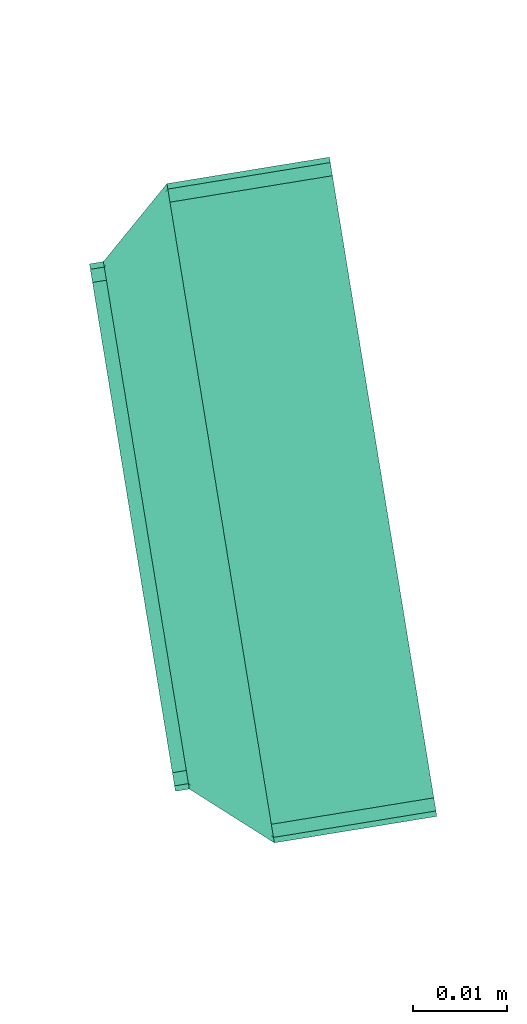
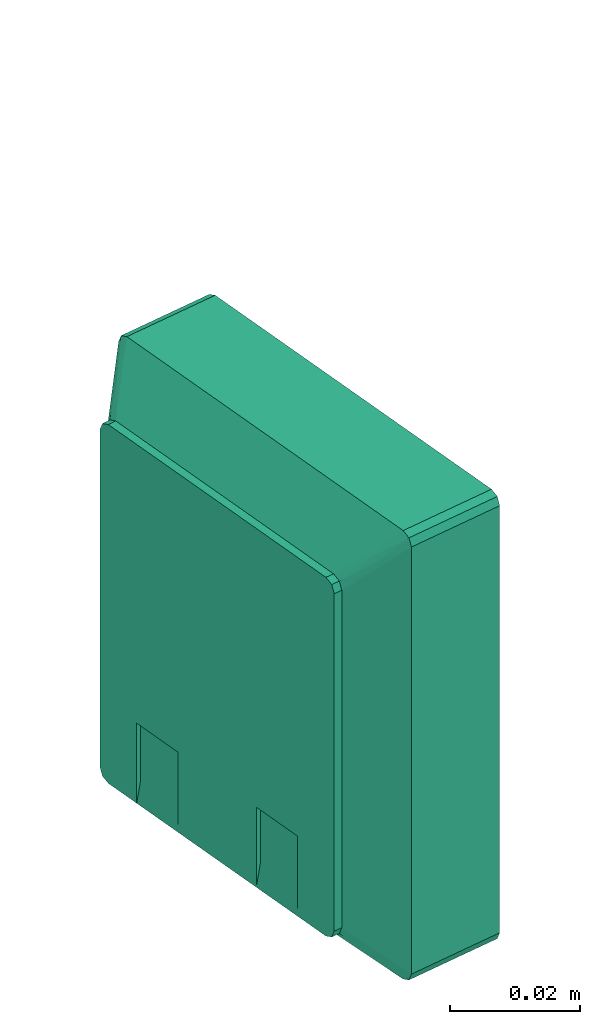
# One storey, part 2 of 2: 1 flow terminal.
"""IFC2X3 building model written with IfcOpenShell, lengths in millimetres."""

import ifcopenshell
import ifcopenshell.guid

model = None  # the IFC model being written
_history = None  # IfcOwnerHistory: only IFC2X3 demands one
_inside = {}  # id of a spatial element -> (the spatial element, [elements in it])
_under = {}  # id of a project, library or spatial element -> (it, [spatial elements below it])
_declared = {}  # id of a project -> (the project, [libraries it declares])
_typed = {}  # id of a type object -> (the type object, [elements of that type])
_made_of = {}  # id of a material, layer set ... -> (it, [elements and type objects made of it])


def new_model(schema):
    """Start an empty IFC model of exactly this schema.

    Asked for "IFC4X3", IfcOpenShell would pick the latest addendum, in which some entities
    have other attributes; the version numbers below select the first issue.
    IFC2X3 requires an IfcOwnerHistory on every rooted entity: one is made here for all.
    """
    global model, _history
    if schema == "IFC4X3":
        model = ifcopenshell.file(schema_version=(4, 3, 0, 0))
    else:
        model = ifcopenshell.file(schema=schema)
    _inside.clear()
    _under.clear()
    _declared.clear()
    _typed.clear()
    _made_of.clear()
    _history = None
    if model.schema == "IFC2X3":
        org = make("IfcOrganization", Name="unknown")
        user = make(
            "IfcPersonAndOrganization",
            ThePerson=make("IfcPerson", FamilyName="unknown"),
            TheOrganization=org,
        )
        app = make(
            "IfcApplication",
            ApplicationDeveloper=org,
            Version="unknown",
            ApplicationFullName="unknown",
            ApplicationIdentifier="unknown",
        )
        _history = make(
            "IfcOwnerHistory",
            OwningUser=user,
            OwningApplication=app,
            ChangeAction="ADDED",
            CreationDate=0,
        )
    return model


def make(cls, **values):
    """One entity of the class cls with the attributes given. An attribute that is None is left unset."""
    return model.create_entity(
        cls, **{name: value for name, value in values.items() if value is not None}
    )


def entity(cls, *values):
    """Any entity or typed value of the class cls, its attributes in the order of the schema. None: left unset."""
    e = model.create_entity(cls)
    for i, value in enumerate(values):
        if value is not None:
            e[i] = value
    return e


def rooted(cls, **values):
    """An entity with a GlobalId (a new one), such as an element, a storey or a relation."""
    return make(cls, GlobalId=ifcopenshell.guid.new(), OwnerHistory=_history, **values)


def si_unit(unit_type, name, prefix=None):
    """IfcSIUnit, for example si_unit("LENGTHUNIT", "METRE", prefix="MILLI")."""
    return make("IfcSIUnit", UnitType=unit_type, Prefix=prefix, Name=name)


def converted_unit(unit_type, name, factor, base, dimensions=None, offset=None):
    """IfcConversionBasedUnit, such as the inch: factor (a typed value) times the base unit."""
    return make(
        "IfcConversionBasedUnit"
        if offset is None
        else "IfcConversionBasedUnitWithOffset",
        ConversionOffset=offset,
        Dimensions=None
        if dimensions is None
        else entity("IfcDimensionalExponents", *dimensions),
        UnitType=unit_type,
        Name=name,
        ConversionFactor=make(
            "IfcMeasureWithUnit", ValueComponent=factor, UnitComponent=base
        ),
    )


def derived_unit(unit_type, elements):
    """IfcDerivedUnit: a product of units, each with its exponent."""
    return make(
        "IfcDerivedUnit",
        Elements=[
            make("IfcDerivedUnitElement", Unit=unit, Exponent=power)
            for unit, power in elements
        ],
        UnitType=unit_type,
    )


def assignment(units):
    """IfcUnitAssignment: the units of a project."""
    return None if units is None else make("IfcUnitAssignment", Units=units)


def point(xyz):
    """IfcCartesianPoint."""
    return None if xyz is None else make("IfcCartesianPoint", Coordinates=xyz)


def direction(xyz):
    """IfcDirection."""
    return None if xyz is None else make("IfcDirection", DirectionRatios=xyz)


def frame(location, z_axis=None, x_axis=None):
    """IfcAxis2Placement3D, a coordinate frame: its origin and axes. An axis left out is left unset."""
    return make(
        "IfcAxis2Placement3D",
        Location=point(location),
        Axis=direction(z_axis),
        RefDirection=direction(x_axis),
    )


def origin():
    """The frame at (0, 0, 0) with its axes left unset."""
    return frame((0.0, 0.0, 0.0))


def origin_with_axes():
    """The frame at (0, 0, 0) with the z axis (0, 0, 1) and the x axis (1, 0, 0) written out."""
    return frame((0.0, 0.0, 0.0), z_axis=(0.0, 0.0, 1.0), x_axis=(1.0, 0.0, 0.0))


def place(relative_to, where):
    """IfcLocalPlacement: puts the frame where relative to a parent placement (None: the world)."""
    return make(
        "IfcLocalPlacement", PlacementRelTo=relative_to, RelativePlacement=where
    )


def context(
    kind, dimensions, precision=None, world=None, true_north=None, identifier=None
):
    """IfcGeometricRepresentationContext, for example the 3D "Model" context."""
    return make(
        "IfcGeometricRepresentationContext",
        ContextIdentifier=identifier,
        ContextType=kind,
        CoordinateSpaceDimension=dimensions,
        Precision=precision,
        WorldCoordinateSystem=world,
        TrueNorth=true_north,
    )


def subcontext(parent, identifier, kind, view, scale=None):
    """IfcGeometricRepresentationSubContext, for example "Body" below "Model"."""
    return make(
        "IfcGeometricRepresentationSubContext",
        ContextIdentifier=identifier,
        ContextType=kind,
        ParentContext=parent,
        TargetScale=scale,
        TargetView=view,
    )


def project(units=None, contexts=None):
    """IfcProject with its units and contexts."""
    return rooted(
        "IfcProject",
        Name="project",
        RepresentationContexts=contexts,
        UnitsInContext=assignment(units),
    )


def spatial(cls, under=None, at=None, **own):
    """A site, building, storey or space (cls), placed at a placement, below another one or the project."""
    s = rooted(cls, ObjectPlacement=at, **own)
    if under is not None:
        _under.setdefault(under.id(), (under, []))[1].append(s)
    return s


def faces_of(points, faces, orient=None, outer=None):
    """IfcFace entities. A face is a list of loops; a loop is a list of indices into points, from 0.

    orient and outer hold one flag for each loop. By default every Orientation is true, the
    first loop of a face is its IfcFaceOuterBound and the others are IfcFaceBound.
    """
    made = []
    for i, loops in enumerate(faces):
        bounds = []
        for j, loop in enumerate(loops):
            is_outer = j == 0 if outer is None else outer[i][j]
            bounds.append(
                make(
                    "IfcFaceOuterBound" if is_outer else "IfcFaceBound",
                    Bound=make("IfcPolyLoop", Polygon=[points[k] for k in loop]),
                    Orientation=True if orient is None else orient[i][j],
                )
            )
        made.append(make("IfcFace", Bounds=bounds))
    return made


def faceted_brep(points, faces, orient=None, outer=None, voids=None):
    """IfcFacetedBrep: a solid bounded by flat faces; with voids (closed shells), ...WithVoids."""
    shared = [point(p) for p in points]
    hull = make("IfcClosedShell", CfsFaces=faces_of(shared, faces, orient, outer))
    if voids is None:
        return make("IfcFacetedBrep", Outer=hull)
    return make(
        "IfcFacetedBrepWithVoids",
        Outer=hull,
        Voids=[
            make(cls, CfsFaces=faces_of(shared, fs, o, b)) for cls, fs, o, b in voids
        ],
    )


def shape(context_of_items, identifier, shape_type, items):
    """IfcShapeRepresentation: the items that make up one representation, for example the "Body"."""
    return make(
        "IfcShapeRepresentation",
        ContextOfItems=context_of_items,
        RepresentationIdentifier=identifier,
        RepresentationType=shape_type,
        Items=items,
    )


def source(mapping_origin, context_of_items, identifier, shape_type, items):
    """IfcRepresentationMap: a shape defined once, which mapped items show again and again."""
    return make(
        "IfcRepresentationMap",
        MappingOrigin=mapping_origin,
        MappedRepresentation=shape(context_of_items, identifier, shape_type, items),
    )


def transform(
    local_origin,
    x_axis=None,
    y_axis=None,
    z_axis=None,
    scale=None,
    scale2=None,
    scale3=None,
    uniform=True,
):
    """IfcCartesianTransformationOperator3D, or its non-uniform kind. x_axis, y_axis, z_axis: its Axis1, 2, 3."""
    if uniform:
        return make(
            "IfcCartesianTransformationOperator3D",
            Axis1=direction(x_axis),
            Axis2=direction(y_axis),
            LocalOrigin=point(local_origin),
            Scale=scale,
            Axis3=direction(z_axis),
        )
    return make(
        "IfcCartesianTransformationOperator3DnonUniform",
        Axis1=direction(x_axis),
        Axis2=direction(y_axis),
        LocalOrigin=point(local_origin),
        Scale=scale,
        Axis3=direction(z_axis),
        Scale2=scale2,
        Scale3=scale3,
    )


def mapped(mapping_source, mapping_target):
    """IfcMappedItem: shows the shape of a source again, moved by a transform."""
    return make(
        "IfcMappedItem", MappingSource=mapping_source, MappingTarget=mapping_target
    )


def material(Name=None, Category=None):
    """IfcMaterial."""
    return make("IfcMaterial", Name=Name, Category=Category)


def made_of(thing, what):
    """Note that an element or type object is made of a material, layer set ...; save() writes the relation."""
    if what is not None:
        _made_of.setdefault(what.id(), (what, []))[1].append(thing)
    return thing


def type_object(cls, material=None, **own):
    """A type object (cls), such as IfcWallType, which elements share."""
    return made_of(rooted(cls, **own), material)


def element(
    cls,
    number,
    at=None,
    inside=None,
    cuts=None,
    type_object=None,
    material=None,
    context=None,
    identifier="Body",
    shape_type=None,
    held_by="IfcProductDefinitionShape",
    body=None,
    shapes=None,
    **own,
):
    """One element of the class cls, such as IfcWall. Its Tag is "e" and its number.

    at: its placement. inside: the storey or other place that contains it. cuts: it is an
    opening in that element (IfcRelVoidsElement). A single representation is given by context,
    identifier, shape_type and body (its items); several are given by shapes. held_by: the class
    of the entity that holds the representations. save() writes the other relations.
    """
    e = rooted(cls, Tag="e%d" % number, ObjectPlacement=at, **own)
    if body is not None:
        shapes = [shape(context, identifier, shape_type, body)]
    if shapes is not None:
        e.Representation = make(held_by, Representations=shapes)
    if inside is not None:
        _inside.setdefault(inside.id(), (inside, []))[1].append(e)
    if cuts is not None:
        rooted(
            "IfcRelVoidsElement", RelatingBuildingElement=cuts, RelatedOpeningElement=e
        )
    if type_object is not None:
        _typed.setdefault(type_object.id(), (type_object, []))[1].append(e)
    return made_of(e, material)


def aggregate(whole, parts):
    """IfcRelAggregates: a whole, such as a stair, and the parts it consists of."""
    return rooted("IfcRelAggregates", RelatingObject=whole, RelatedObjects=parts)


def save(model, path):
    """Write the relations noted so far, then the file.

    IfcRelAggregates (storeys below a building ...), IfcRelContainedInSpatialStructure (elements
    in a storey), IfcRelDefinesByType, IfcRelAssociatesMaterial and IfcRelDeclares: one each for
    every whole, place, type object, material and project.
    """
    for whole, parts in _under.values():
        aggregate(whole, parts)
    for where, things in _inside.values():
        rooted(
            "IfcRelContainedInSpatialStructure",
            RelatedElements=things,
            RelatingStructure=where,
        )
    for kind, things in _typed.values():
        rooted("IfcRelDefinesByType", RelatedObjects=things, RelatingType=kind)
    for what, things in _made_of.values():
        rooted("IfcRelAssociatesMaterial", RelatedObjects=things, RelatingMaterial=what)
    for by, libraries in _declared.values():
        rooted("IfcRelDeclares", RelatingContext=by, RelatedDefinitions=libraries)
    model.write(path)


model = new_model("IFC2X3")

# Units and contexts
model_context = context("Model", 3, precision=0.01, world=origin(), true_north=direction((6.12323399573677e-17, 1.0)))
plan_context = context("Plan", 3, precision=1e-05, world=origin_with_axes())
body_context = subcontext(model_context, "Body", "Model", "MODEL_VIEW")
ifc_project = project(units=[converted_unit("PLANEANGLEUNIT", "DEGREE", entity("IfcPositiveLengthMeasure", 0.0174532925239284), si_unit("PLANEANGLEUNIT", "RADIAN"), dimensions=[0, 0, 0, 0, 0, 0, 0]), si_unit("AREAUNIT", "SQUARE_METRE"), si_unit("LENGTHUNIT", "METRE", prefix="MILLI"), si_unit("MASSUNIT", "GRAM", prefix="KILO"), si_unit("POWERUNIT", "WATT"), si_unit("PRESSUREUNIT", "PASCAL", prefix="KILO"), si_unit("FORCEUNIT", "NEWTON", prefix="KILO"), si_unit("ELECTRICVOLTAGEUNIT", "VOLT"), si_unit("ELECTRICCURRENTUNIT", "AMPERE"), si_unit("THERMODYNAMICTEMPERATUREUNIT", "DEGREE_CELSIUS"), si_unit("TIMEUNIT", "SECOND"), si_unit("VOLUMEUNIT", "CUBIC_METRE"), derived_unit("LINEARVELOCITYUNIT", [(si_unit("LENGTHUNIT", "METRE"), 1), (si_unit("TIMEUNIT", "SECOND"), -1)]), derived_unit("VOLUMETRICFLOWRATEUNIT", [(si_unit("VOLUMEUNIT", "CUBIC_METRE"), 1), (si_unit("TIMEUNIT", "SECOND"), -1)]), derived_unit("THERMALTRANSMITTANCEUNIT", [(si_unit("POWERUNIT", "WATT"), 1), (si_unit("THERMODYNAMICTEMPERATUREUNIT", "KELVIN"), -1), (si_unit("AREAUNIT", "SQUARE_METRE"), -1)]), derived_unit("SOUNDPRESSUREUNIT", [(si_unit("PRESSUREUNIT", "PASCAL"), 1)])], contexts=[model_context, plan_context])

# Site, building, storey
site_placement = place(None, frame((5.09380697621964e-08, 5.80416781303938e-08, 0.0), z_axis=(0.0, 0.0, 1.0), x_axis=(-0.160806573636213, 0.986985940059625, 0.0)))
site = spatial("IfcSite", under=ifc_project, at=site_placement, Name="Default", CompositionType="ELEMENT")
building_placement = place(site_placement, frame((0.0, 0.0, 0.0), z_axis=(0.0, 0.0, 1.0), x_axis=(1.0, -2.77555756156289e-17, 0.0)))
building = spatial("IfcBuilding", under=site, at=building_placement, Name="Bygning (endres i Project Information)", CompositionType="ELEMENT")
storey_placement = place(building_placement, frame((0.0, 0.0, 51360.0000000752), z_axis=(0.0, 0.0, 1.0), x_axis=(1.0, -2.77555756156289e-17, 0.0)))
storey = spatial("IfcBuildingStorey", under=building, at=storey_placement, Name="H01-Nivå D+0,36", CompositionType="ELEMENT", Elevation=51360.0000000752)

# Flow terminal
ifc_material = material(Name="Plastic - White")
electric_appliance_type = type_object("IfcElectricApplianceType", Name="UD2002 Spredenett - 2 uttak - Påvegg_Vegg:UD2002", PredefinedType="NOTDEFINED", material=ifc_material)
shared_shape = source(origin(), body_context, "Body", "Brep", [
    faceted_brep([(28.4000000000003, 25.4999999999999, -31.5999999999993), (27.8142135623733, 25.4999999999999, -33.0142135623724), (26.4000000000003, 25.4999999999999, -33.5999999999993), (-26.3999999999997, 25.4999999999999, -33.5999999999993), (-27.8142135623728, 25.4999999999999, -33.0142135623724), (-28.3999999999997, 25.4999999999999, -31.5999999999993), (-28.3999999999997, 25.4999999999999, 31.6000000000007), (-27.8142135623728, 25.4999999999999, 33.0142135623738), (-26.3999999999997, 25.4999999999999, 33.6000000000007), (26.4000000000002, 25.4999999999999, 33.6000000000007), (27.8142135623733, 25.4999999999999, 33.0142135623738), (28.4000000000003, 25.4999999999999, 31.6000000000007), (35.5000000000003, 17.5, 40.0), (34.9142135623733, 17.5, 41.4142135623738), (33.5000000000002, 17.5, 42.0), (-33.4999999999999, 17.5, 42.0), (-34.914213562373, 17.5, 41.4142135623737), (-35.4999999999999, 17.5, 40.0), (-35.4999999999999, 17.5, -40.0), (-34.914213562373, 17.5, -41.4142135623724), (-33.4999999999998, 17.5, -42.0), (33.5000000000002, 17.5, -42.0), (34.9142135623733, 17.5, -41.4142135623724), (35.5000000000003, 17.5, -40.0), (29.8123847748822, 21.6550594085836, 37.6371876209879), (-29.8123847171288, 21.6550594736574, 37.6371875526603), (-31.8123847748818, 21.6550594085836, 35.6371876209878), (-31.8123847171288, 21.6550594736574, -35.637187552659), (29.8123844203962, 21.6550598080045, -37.6371872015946), (-29.8123847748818, 21.6550594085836, -37.6371876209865), (31.8123844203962, 21.6550598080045, 35.6371872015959), (31.8123847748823, 21.6550594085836, -35.6371876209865), (-31.6676261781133, 21.5000001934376, 36.8245776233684), (-31.1968403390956, 21.2063787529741, 37.8482184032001), (-30.9745776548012, 21.5000001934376, -37.5176261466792), (-31.9505049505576, 21.2063787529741, -37.0945537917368), (31.6676261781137, 21.5000001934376, -36.824577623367), (31.196840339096, 21.2063787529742, -37.8482184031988), (30.9745776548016, 21.5000001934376, 37.5176261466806), (31.950504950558, 21.2063787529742, 37.0945537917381)], [[[0, 1, 2, 3, 4, 5, 6, 7, 8, 9, 10, 11]], [[12, 13, 14, 15, 16, 17, 18, 19, 20, 21, 22, 23]], [[14, 24, 9, 8, 25, 15]], [[17, 26, 6, 5, 27, 18]], [[3, 2, 28, 21, 20, 29]], [[0, 11, 30, 12, 23, 31]], [[16, 32, 17]], [[33, 15, 25, 8]], [[15, 33, 16]], [[7, 6, 32]], [[7, 32, 33]], [[17, 32, 6, 26]], [[8, 7, 33]], [[33, 32, 16]], [[19, 34, 20]], [[35, 18, 27, 5]], [[18, 35, 19]], [[4, 3, 34]], [[4, 34, 35]], [[20, 34, 3, 29]], [[5, 4, 35]], [[35, 34, 19]], [[22, 36, 23]], [[37, 21, 28, 2]], [[21, 37, 22]], [[1, 0, 36]], [[1, 36, 37]], [[23, 36, 0, 31]], [[2, 1, 37]], [[37, 36, 22]], [[13, 38, 14]], [[39, 12, 30, 11]], [[12, 39, 13]], [[10, 9, 38]], [[10, 38, 39]], [[14, 38, 9, 24]], [[11, 10, 39]], [[39, 38, 13]]]),
    faceted_brep([(35.5000000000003, 0.0, 40.0), (34.9142135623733, 0.0, 41.4142135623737), (33.5000000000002, 0.0, 42.0), (-33.4999999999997, 0.0, 42.0), (-34.9142135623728, 0.0, 41.4142135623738), (-35.4999999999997, 0.0, 40.0), (-35.4999999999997, 0.0, -40.0), (-34.9142135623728, 0.0, -41.4142135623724), (-33.4999999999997, 0.0, -42.0), (33.5000000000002, 0.0, -42.0), (34.9142135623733, 0.0, -41.4142135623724), (35.5000000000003, 0.0, -40.0), (-35.4999999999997, 17.5, 40.0), (-34.9142135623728, 17.5, 41.4142135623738), (-33.4999999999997, 17.5, 42.0), (33.5000000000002, 17.5, 42.0), (34.9142135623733, 17.5, 41.4142135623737), (35.5000000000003, 17.5, 40.0), (35.5000000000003, 17.5, -40.0), (34.9142135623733, 17.5, -41.4142135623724), (33.5000000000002, 17.5, -42.0), (-33.4999999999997, 17.5, -42.0), (-34.9142135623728, 17.5, -41.4142135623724), (-35.4999999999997, 17.5, -40.0)], [[[0, 1, 2, 3, 4, 5, 6, 7, 8, 9, 10, 11]], [[12, 13, 14, 15, 16, 17, 18, 19, 20, 21, 22, 23]], [[3, 2, 15, 14]], [[3, 14, 13, 4]], [[13, 12, 5, 4]], [[6, 5, 12, 23]], [[6, 23, 22, 7]], [[22, 21, 8, 7]], [[9, 8, 21, 20]], [[9, 20, 19, 10]], [[19, 18, 11, 10]], [[0, 11, 18, 17]], [[0, 17, 16, 1]], [[16, 15, 2, 1]]]),
    faceted_brep([(28.4, 25.4999999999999, 31.6000000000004), (27.8142135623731, 25.4999999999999, 33.0142135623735), (26.3999999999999, 25.4999999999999, 33.6000000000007), (-26.3999999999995, 25.4999999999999, 33.6000000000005), (-27.8142135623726, 25.4999999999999, 33.0142135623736), (-28.3999999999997, 25.4999999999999, 31.6000000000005), (-28.3999999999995, 25.4999999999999, -31.599999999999), (-27.8142135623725, 25.4999999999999, -33.0142135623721), (-26.3999999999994, 25.4999999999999, -33.5999999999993), (26.4000000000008, 25.4999999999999, -33.5999999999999), (27.8142135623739, 25.4999999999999, -33.014213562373), (28.4000000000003, 25.4999999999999, -31.5999999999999), (-28.3999999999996, 27.0, 31.6000000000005), (-27.8142135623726, 27.0, 33.0142135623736), (-26.3999999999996, 27.0, 33.6000000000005), (26.4, 27.0, 33.6000000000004), (27.8142135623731, 27.0, 33.0142135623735), (28.4, 27.0, 31.6000000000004), (28.4000000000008, 27.0, -31.5999999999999), (27.8142135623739, 27.0, -33.014213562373), (26.4000000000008, 27.0, -33.5999999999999), (19.4976197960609, 27.0, -33.5999999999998), (19.4976197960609, 27.0, -18.5999999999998), (9.50238020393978, 27.0, -18.5999999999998), (9.50238020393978, 27.0, -33.5999999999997), (-9.5023802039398, 27.0, -33.5999999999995), (-9.5023802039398, 27.0, -18.5999999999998), (-19.4976197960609, 27.0, -18.5999999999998), (-19.4976197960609, 27.0, -33.5999999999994), (-26.3999999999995, 27.0, -33.599999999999), (-27.8142135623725, 27.0, -33.0142135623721), (-28.3999999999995, 27.0, -31.5999999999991), (19.4976197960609, 26.2000000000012, -29.6000000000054), (19.4976197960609, 26.2000000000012, -18.5999999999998), (9.50238020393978, 26.2000000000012, -18.5999999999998), (9.50238020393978, 26.2000000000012, -29.6000000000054), (-19.4976197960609, 26.2000000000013, -18.5999999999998), (-9.5023802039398, 26.2000000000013, -18.5999999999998), (-9.5023802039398, 26.2000000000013, -29.6000000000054), (-19.4976197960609, 26.2000000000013, -29.6000000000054)], [[[0, 1, 2, 3, 4, 5, 6, 7, 8, 9, 10, 11]], [[12, 13, 14, 15, 16, 17, 18, 19, 20, 21, 22, 23, 24, 25, 26, 27, 28, 29, 30, 31]], [[3, 2, 15, 14]], [[3, 14, 13, 4]], [[13, 12, 5, 4]], [[6, 5, 12, 31]], [[6, 31, 30, 7]], [[30, 29, 8, 7]], [[8, 29, 28, 25, 24, 21, 20, 9]], [[9, 20, 19, 10]], [[19, 18, 11, 10]], [[0, 11, 18, 17]], [[0, 17, 16, 1]], [[16, 15, 2, 1]], [[32, 33, 22, 21]], [[23, 34, 35, 24]], [[34, 33, 32, 35]], [[36, 37, 38, 39]], [[23, 22, 33, 34]], [[27, 26, 37, 36]], [[24, 35, 32, 21]], [[39, 38, 25, 28]], [[38, 37, 26, 25]], [[27, 36, 39, 28]]]),
])
flow_terminal_placement = place(storey_placement, frame((994692.890304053, -390930.317807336, 3572.88184636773), z_axis=(0.0, 0.0, 1.0), x_axis=(1.0, -2.77555756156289e-17, 0.0)))
element("IfcFlowTerminal", 1, at=flow_terminal_placement, inside=storey, type_object=electric_appliance_type, material=ifc_material, Name="UD2002 Spredenett - 2 uttak - Påvegg_Vegg:UD2002", ObjectType="UD2002 Spredenett - 2 uttak - Påvegg_Vegg:UD2002", context=body_context, shape_type="MappedRepresentation", body=[
    mapped(shared_shape, transform((0.0, 0.0, 0.0), scale=1.0)),
])

save(model, "model.ifc")
